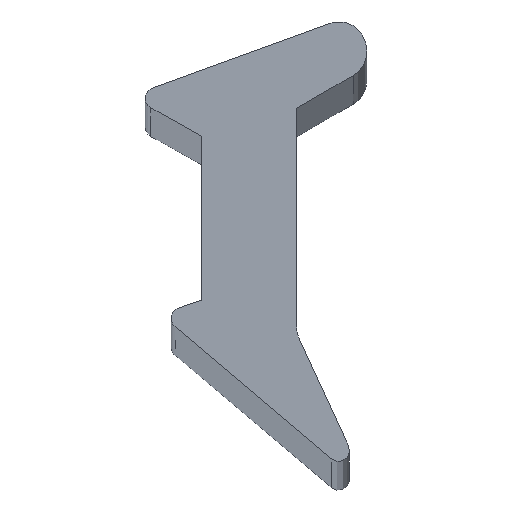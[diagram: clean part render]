
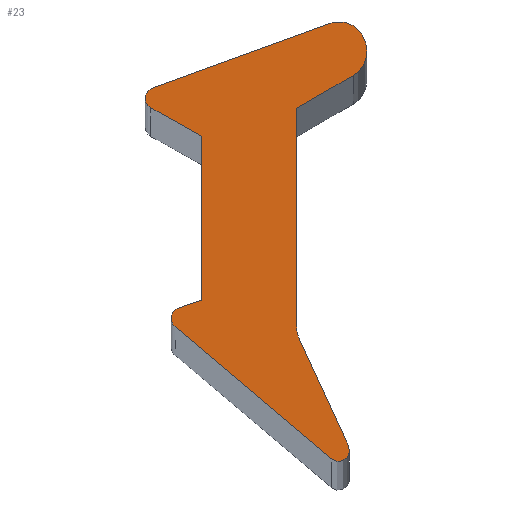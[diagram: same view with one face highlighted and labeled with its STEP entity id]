
A CAD part, top view. The second image highlights one B-rep face of the part: STEP entity #23.
In plain terms, the highlighted planar face has unit normal (0, 0, 1).
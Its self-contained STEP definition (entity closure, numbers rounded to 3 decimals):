
#1 = CARTESIAN_POINT ( 'NONE',  ( -0.487, -0.487, 150. ) ) ;
#4 = LINE ( 'NONE', #399, #63 ) ;
#19 = ORIENTED_EDGE ( 'NONE', *, *, #289, .T. ) ;
#22 = DIRECTION ( 'NONE',  ( 0., 0., 1. ) ) ;
#23 = ADVANCED_FACE ( 'NONE', ( #494 ), #313, .T. ) ;
#25 = ORIENTED_EDGE ( 'NONE', *, *, #348, .T. ) ;
#26 = CARTESIAN_POINT ( 'NONE',  ( 2.236, -0.49, 150. ) ) ;
#28 = VECTOR ( 'NONE', #585, 1000. ) ;
#29 = ORIENTED_EDGE ( 'NONE', *, *, #544, .T. ) ;
#30 = EDGE_CURVE ( 'NONE', #397, #183, #38, .T. ) ;
#35 = AXIS2_PLACEMENT_3D ( 'NONE', #52, #664, #590 ) ;
#38 = LINE ( 'NONE', #648, #354 ) ;
#40 = EDGE_CURVE ( 'NONE', #269, #306, #232, .T. ) ;
#45 = LINE ( 'NONE', #658, #28 ) ;
#47 = DIRECTION ( 'NONE',  ( 1., 0., 0. ) ) ;
#48 = ORIENTED_EDGE ( 'NONE', *, *, #182, .T. ) ;
#50 = AXIS2_PLACEMENT_3D ( 'NONE', #26, #422, #353 ) ;
#52 = CARTESIAN_POINT ( 'NONE',  ( -0.358, -0.334, 150. ) ) ;
#56 = AXIS2_PLACEMENT_3D ( 'NONE', #213, #139, #68 ) ;
#60 = ORIENTED_EDGE ( 'NONE', *, *, #129, .T. ) ;
#63 = VECTOR ( 'NONE', #329, 1000. ) ;
#64 = VERTEX_POINT ( 'NONE', #506 ) ;
#67 = DIRECTION ( 'NONE',  ( 0., 0., 1. ) ) ;
#68 = DIRECTION ( 'NONE',  ( 1., 0., 0. ) ) ;
#86 = CIRCLE ( 'NONE', #50, 0.5 ) ;
#87 = EDGE_CURVE ( 'NONE', #64, #184, #4, .T. ) ;
#90 = AXIS2_PLACEMENT_3D ( 'NONE', #138, #67, #682 ) ;
#91 = CARTESIAN_POINT ( 'NONE',  ( 2.507, -2.753, 150. ) ) ;
#92 = CIRCLE ( 'NONE', #56, 0.2 ) ;
#95 = DIRECTION ( 'NONE',  ( 0.764, -0.645, 0. ) ) ;
#99 = CARTESIAN_POINT ( 'NONE',  ( 2.344, 5.061, 150. ) ) ;
#108 = CARTESIAN_POINT ( 'NONE',  ( 2.378, -2.906, 150. ) ) ;
#109 = VECTOR ( 'NONE', #211, 1000. ) ;
#110 = DIRECTION ( 'NONE',  ( 1., 0., 0. ) ) ;
#115 = VERTEX_POINT ( 'NONE', #673 ) ;
#117 = DIRECTION ( 'NONE',  ( 0., 0., 1. ) ) ;
#121 = CARTESIAN_POINT ( 'NONE',  ( 2.522, 4.543, 150. ) ) ;
#125 = VECTOR ( 'NONE', #499, 1000. ) ;
#129 = EDGE_CURVE ( 'NONE', #277, #115, #314, .T. ) ;
#138 = CARTESIAN_POINT ( 'NONE',  ( 2.515, 4.591, 150. ) ) ;
#139 = DIRECTION ( 'NONE',  ( 0., 0., 1. ) ) ;
#141 = CIRCLE ( 'NONE', #35, 0.2 ) ;
#144 = DIRECTION ( 'NONE',  ( 1., 0., 0. ) ) ;
#151 = CARTESIAN_POINT ( 'NONE',  ( -0.928, 3.518, 150. ) ) ;
#158 = AXIS2_PLACEMENT_3D ( 'NONE', #91, #215, #144 ) ;
#162 = CARTESIAN_POINT ( 'NONE',  ( -0.757, -0.26, 150. ) ) ;
#163 = VECTOR ( 'NONE', #345, 1000. ) ;
#164 = LINE ( 'NONE', #565, #511 ) ;
#177 = DIRECTION ( 'NONE',  ( 0., 0., 1. ) ) ;
#179 = EDGE_CURVE ( 'NONE', #661, #206, #164, .T. ) ;
#180 = DIRECTION ( 'NONE',  ( -0.946, -0.324, 0. ) ) ;
#182 = EDGE_CURVE ( 'NONE', #218, #397, #196, .T. ) ;
#183 = VERTEX_POINT ( 'NONE', #586 ) ;
#184 = VERTEX_POINT ( 'NONE', #514 ) ;
#185 = VERTEX_POINT ( 'NONE', #445 ) ;
#187 = CARTESIAN_POINT ( 'NONE',  ( -0.831, 3.693, 150. ) ) ;
#191 = AXIS2_PLACEMENT_3D ( 'NONE', #251, #177, #110 ) ;
#196 = CIRCLE ( 'NONE', #217, 0.2 ) ;
#206 = VERTEX_POINT ( 'NONE', #640 ) ;
#211 = DIRECTION ( 'NONE',  ( -0.94, -0.342, 0. ) ) ;
#213 = CARTESIAN_POINT ( 'NONE',  ( -0.831, 3.693, 150. ) ) ;
#215 = DIRECTION ( 'NONE',  ( 0., 0., 1. ) ) ;
#217 = AXIS2_PLACEMENT_3D ( 'NONE', #187, #117, #47 ) ;
#218 = VERTEX_POINT ( 'NONE', #570 ) ;
#221 = ORIENTED_EDGE ( 'NONE', *, *, #343, .T. ) ;
#226 = ORIENTED_EDGE ( 'NONE', *, *, #179, .T. ) ;
#232 = LINE ( 'NONE', #162, #372 ) ;
#251 = CARTESIAN_POINT ( 'NONE',  ( 0., 0., 150. ) ) ;
#252 = CARTESIAN_POINT ( 'NONE',  ( 0., 0., 150. ) ) ;
#253 = EDGE_CURVE ( 'NONE', #347, #218, #92, .T. ) ;
#255 = ORIENTED_EDGE ( 'NONE', *, *, #40, .T. ) ;
#259 = ORIENTED_EDGE ( 'NONE', *, *, #490, .T. ) ;
#263 = CARTESIAN_POINT ( 'NONE',  ( 1.736, 3.509, 150. ) ) ;
#269 = VERTEX_POINT ( 'NONE', #1 ) ;
#271 = CARTESIAN_POINT ( 'NONE',  ( -1.31, 3.731, 150. ) ) ;
#274 = CARTESIAN_POINT ( 'NONE',  ( -0.899, 3.881, 150. ) ) ;
#277 = VERTEX_POINT ( 'NONE', #392 ) ;
#283 = ORIENTED_EDGE ( 'NONE', *, *, #253, .T. ) ;
#289 = EDGE_CURVE ( 'NONE', #206, #185, #450, .T. ) ;
#305 = VECTOR ( 'NONE', #180, 1000. ) ;
#306 = VERTEX_POINT ( 'NONE', #108 ) ;
#313 = PLANE ( 'NONE',  #191 ) ;
#314 = LINE ( 'NONE', #252, #305 ) ;
#317 = VERTEX_POINT ( 'NONE', #377 ) ;
#322 = VERTEX_POINT ( 'NONE', #576 ) ;
#329 = DIRECTION ( 'NONE',  ( -0.418, 0.909, 0. ) ) ;
#337 = LINE ( 'NONE', #271, #109 ) ;
#343 = EDGE_CURVE ( 'NONE', #185, #322, #483, .T. ) ;
#345 = DIRECTION ( 'NONE',  ( -0.148, 0.989, 0. ) ) ;
#347 = VERTEX_POINT ( 'NONE', #274 ) ;
#348 = EDGE_CURVE ( 'NONE', #306, #64, #554, .T. ) ;
#353 = DIRECTION ( 'NONE',  ( 1., 0., 0. ) ) ;
#354 = VECTOR ( 'NONE', #579, 1000. ) ;
#366 = CARTESIAN_POINT ( 'NONE',  ( -0.358, -0.334, 150. ) ) ;
#371 = ORIENTED_EDGE ( 'NONE', *, *, #30, .T. ) ;
#372 = VECTOR ( 'NONE', #95, 1000. ) ;
#377 = CARTESIAN_POINT ( 'NONE',  ( -0.558, -0.334, 150. ) ) ;
#384 = VERTEX_POINT ( 'NONE', #99 ) ;
#385 = EDGE_CURVE ( 'NONE', #115, #317, #665, .T. ) ;
#386 = VERTEX_POINT ( 'NONE', #491 ) ;
#392 = CARTESIAN_POINT ( 'NONE',  ( 0., 0., 150. ) ) ;
#397 = VERTEX_POINT ( 'NONE', #151 ) ;
#399 = CARTESIAN_POINT ( 'NONE',  ( 1.736, -0.599, 150. ) ) ;
#407 = EDGE_LOOP ( 'NONE', ( #255, #25, #678, #259, #587, #226, #19, #221, #29, #674, #283, #48, #371, #564, #60, #537, #461 ) ) ;
#412 = CARTESIAN_POINT ( 'NONE',  ( 2.919, 5.27, 150. ) ) ;
#422 = DIRECTION ( 'NONE',  ( 0., 0., -1. ) ) ;
#445 = CARTESIAN_POINT ( 'NONE',  ( 3.016, 4.617, 150. ) ) ;
#450 = CIRCLE ( 'NONE', #452, 0.5 ) ;
#452 = AXIS2_PLACEMENT_3D ( 'NONE', #121, #519, #453 ) ;
#453 = DIRECTION ( 'NONE',  ( 1., 0., 0. ) ) ;
#454 = EDGE_CURVE ( 'NONE', #386, #661, #45, .T. ) ;
#455 = AXIS2_PLACEMENT_3D ( 'NONE', #366, #22, #635 ) ;
#461 = ORIENTED_EDGE ( 'NONE', *, *, #558, .T. ) ;
#483 = LINE ( 'NONE', #412, #163 ) ;
#488 = DIRECTION ( 'NONE',  ( 0.865, 0.502, 0. ) ) ;
#490 = EDGE_CURVE ( 'NONE', #184, #386, #86, .T. ) ;
#491 = CARTESIAN_POINT ( 'NONE',  ( 1.736, -0.49, 150. ) ) ;
#494 = FACE_OUTER_BOUND ( 'NONE', #407, .T. ) ;
#499 = DIRECTION ( 'NONE',  ( 0., -1., 0. ) ) ;
#500 = CIRCLE ( 'NONE', #90, 0.5 ) ;
#506 = CARTESIAN_POINT ( 'NONE',  ( 2.688, -2.67, 150. ) ) ;
#511 = VECTOR ( 'NONE', #488, 1000. ) ;
#514 = CARTESIAN_POINT ( 'NONE',  ( 1.782, -0.699, 150. ) ) ;
#519 = DIRECTION ( 'NONE',  ( 0., 0., 1. ) ) ;
#537 = ORIENTED_EDGE ( 'NONE', *, *, #385, .T. ) ;
#542 = EDGE_CURVE ( 'NONE', #384, #347, #337, .T. ) ;
#544 = EDGE_CURVE ( 'NONE', #322, #384, #500, .T. ) ;
#554 = CIRCLE ( 'NONE', #158, 0.2 ) ;
#558 = EDGE_CURVE ( 'NONE', #317, #269, #141, .T. ) ;
#564 = ORIENTED_EDGE ( 'NONE', *, *, #603, .T. ) ;
#565 = CARTESIAN_POINT ( 'NONE',  ( 3.066, 4.281, 150. ) ) ;
#570 = CARTESIAN_POINT ( 'NONE',  ( -1.031, 3.693, 150. ) ) ;
#574 = CARTESIAN_POINT ( 'NONE',  ( 0., 0., 150. ) ) ;
#576 = CARTESIAN_POINT ( 'NONE',  ( 3.009, 4.665, 150. ) ) ;
#579 = DIRECTION ( 'NONE',  ( 0.873, -0.487, 0. ) ) ;
#585 = DIRECTION ( 'NONE',  ( 0., 1., 0. ) ) ;
#586 = CARTESIAN_POINT ( 'NONE',  ( 0., 3., 150. ) ) ;
#587 = ORIENTED_EDGE ( 'NONE', *, *, #454, .T. ) ;
#590 = DIRECTION ( 'NONE',  ( 1., 0., 0. ) ) ;
#603 = EDGE_CURVE ( 'NONE', #183, #277, #642, .T. ) ;
#635 = DIRECTION ( 'NONE',  ( 1., 0., 0. ) ) ;
#640 = CARTESIAN_POINT ( 'NONE',  ( 2.773, 4.111, 150. ) ) ;
#642 = LINE ( 'NONE', #574, #125 ) ;
#648 = CARTESIAN_POINT ( 'NONE',  ( 0., 3., 150. ) ) ;
#658 = CARTESIAN_POINT ( 'NONE',  ( 1.736, 3.509, 150. ) ) ;
#661 = VERTEX_POINT ( 'NONE', #263 ) ;
#664 = DIRECTION ( 'NONE',  ( 0., 0., 1. ) ) ;
#665 = CIRCLE ( 'NONE', #455, 0.2 ) ;
#673 = CARTESIAN_POINT ( 'NONE',  ( -0.423, -0.145, 150. ) ) ;
#674 = ORIENTED_EDGE ( 'NONE', *, *, #542, .T. ) ;
#678 = ORIENTED_EDGE ( 'NONE', *, *, #87, .T. ) ;
#682 = DIRECTION ( 'NONE',  ( 1., 0., 0. ) ) ;
